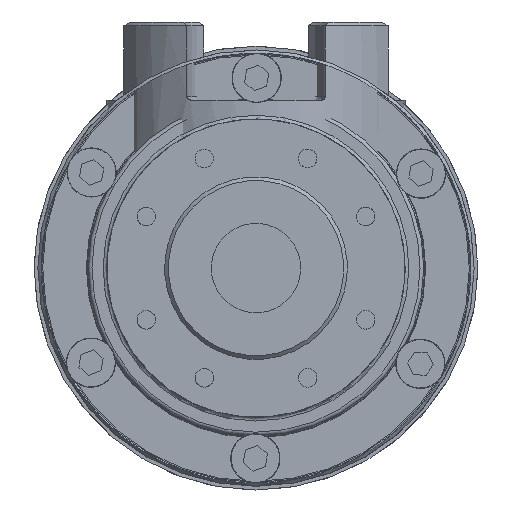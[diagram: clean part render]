
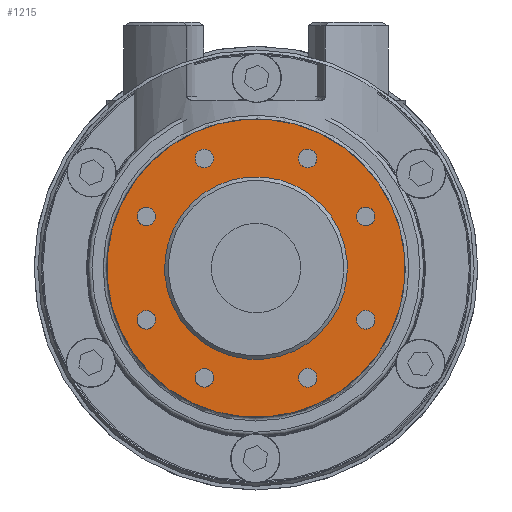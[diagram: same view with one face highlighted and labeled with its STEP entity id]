
A CAD part, left-side view. The second image highlights one B-rep face of the part: STEP entity #1215.
In plain terms, the highlighted planar face has unit normal (-1, 0, 0) as drawn and (0, -1, 0) by its records, which use the part's own axes.
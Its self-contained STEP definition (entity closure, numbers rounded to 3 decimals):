
#1215 = ADVANCED_FACE( '', ( #2581, #2582, #2583, #2584, #2585, #2586, #2587, #2588, #2589, #2590 ), #2591, .F. );
#2581 = FACE_OUTER_BOUND( '', #3860, .T. );
#2582 = FACE_BOUND( '', #3861, .T. );
#2583 = FACE_BOUND( '', #3862, .T. );
#2584 = FACE_BOUND( '', #3863, .T. );
#2585 = FACE_BOUND( '', #3864, .T. );
#2586 = FACE_BOUND( '', #3865, .T. );
#2587 = FACE_BOUND( '', #3866, .T. );
#2588 = FACE_BOUND( '', #3867, .T. );
#2589 = FACE_BOUND( '', #3868, .T. );
#2590 = FACE_BOUND( '', #3869, .T. );
#2591 = PLANE( '', #3870 );
#3860 = EDGE_LOOP( '', ( #6936 ) );
#3861 = EDGE_LOOP( '', ( #6937 ) );
#3862 = EDGE_LOOP( '', ( #6938 ) );
#3863 = EDGE_LOOP( '', ( #6939 ) );
#3864 = EDGE_LOOP( '', ( #6940 ) );
#3865 = EDGE_LOOP( '', ( #6941 ) );
#3866 = EDGE_LOOP( '', ( #6942 ) );
#3867 = EDGE_LOOP( '', ( #6943 ) );
#3868 = EDGE_LOOP( '', ( #6944 ) );
#3869 = EDGE_LOOP( '', ( #6945 ) );
#3870 = AXIS2_PLACEMENT_3D( '', #6946, #6947, #6948 );
#6936 = ORIENTED_EDGE( '', *, *, #7924, .T. );
#6937 = ORIENTED_EDGE( '', *, *, #7935, .F. );
#6938 = ORIENTED_EDGE( '', *, *, #7936, .F. );
#6939 = ORIENTED_EDGE( '', *, *, #7937, .F. );
#6940 = ORIENTED_EDGE( '', *, *, #7938, .F. );
#6941 = ORIENTED_EDGE( '', *, *, #7939, .F. );
#6942 = ORIENTED_EDGE( '', *, *, #7940, .F. );
#6943 = ORIENTED_EDGE( '', *, *, #7941, .F. );
#6944 = ORIENTED_EDGE( '', *, *, #7942, .F. );
#6945 = ORIENTED_EDGE( '', *, *, #7926, .F. );
#6946 = CARTESIAN_POINT( '', ( 0., 0., 40. ) );
#6947 = DIRECTION( '', ( 0., 1., 0. ) );
#6948 = DIRECTION( '', ( 1., 0., 0. ) );
#7924 = EDGE_CURVE( '', #9396, #9396, #9397, .T. );
#7926 = EDGE_CURVE( '', #9400, #9400, #9401, .T. );
#7935 = EDGE_CURVE( '', #9418, #9418, #9419, .T. );
#7936 = EDGE_CURVE( '', #9420, #9420, #9421, .T. );
#7937 = EDGE_CURVE( '', #9422, #9422, #9423, .T. );
#7938 = EDGE_CURVE( '', #9424, #9424, #9425, .T. );
#7939 = EDGE_CURVE( '', #9426, #9426, #9427, .T. );
#7940 = EDGE_CURVE( '', #9428, #9428, #9429, .T. );
#7941 = EDGE_CURVE( '', #9430, #9430, #9431, .T. );
#7942 = EDGE_CURVE( '', #9432, #9432, #9433, .T. );
#9396 = VERTEX_POINT( '', #11826 );
#9397 = CIRCLE( '', #11827, 40. );
#9400 = VERTEX_POINT( '', #11830 );
#9401 = CIRCLE( '', #11831, 24.5 );
#9418 = VERTEX_POINT( '', #11848 );
#9419 = CIRCLE( '', #11849, 2.5 );
#9420 = VERTEX_POINT( '', #11850 );
#9421 = CIRCLE( '', #11851, 2.5 );
#9422 = VERTEX_POINT( '', #11852 );
#9423 = CIRCLE( '', #11853, 2.5 );
#9424 = VERTEX_POINT( '', #11854 );
#9425 = CIRCLE( '', #11855, 2.5 );
#9426 = VERTEX_POINT( '', #11856 );
#9427 = CIRCLE( '', #11857, 2.5 );
#9428 = VERTEX_POINT( '', #11858 );
#9429 = CIRCLE( '', #11859, 2.5 );
#9430 = VERTEX_POINT( '', #11860 );
#9431 = CIRCLE( '', #11861, 2.5 );
#9432 = VERTEX_POINT( '', #11862 );
#9433 = CIRCLE( '', #11863, 2.5 );
#11826 = CARTESIAN_POINT( '', ( 0., 0., -40. ) );
#11827 = AXIS2_PLACEMENT_3D( '', #13591, #13592, #13593 );
#11830 = CARTESIAN_POINT( '', ( 0., 0., -24.5 ) );
#11831 = AXIS2_PLACEMENT_3D( '', #13597, #13598, #13599 );
#11848 = CARTESIAN_POINT( '', ( -25.054, 0., 23.202 ) );
#11849 = AXIS2_PLACEMENT_3D( '', #13624, #13625, #13626 );
#11850 = CARTESIAN_POINT( '', ( -32.5, 0., 2.5 ) );
#11851 = AXIS2_PLACEMENT_3D( '', #13627, #13628, #13629 );
#11852 = CARTESIAN_POINT( '', ( -23.202, 0., -25.054 ) );
#11853 = AXIS2_PLACEMENT_3D( '', #13630, #13631, #13632 );
#11854 = CARTESIAN_POINT( '', ( -2.5, 0., -32.5 ) );
#11855 = AXIS2_PLACEMENT_3D( '', #13633, #13634, #13635 );
#11856 = CARTESIAN_POINT( '', ( 25.054, 0., -23.202 ) );
#11857 = AXIS2_PLACEMENT_3D( '', #13636, #13637, #13638 );
#11858 = CARTESIAN_POINT( '', ( 32.5, 0., -2.5 ) );
#11859 = AXIS2_PLACEMENT_3D( '', #13639, #13640, #13641 );
#11860 = CARTESIAN_POINT( '', ( 23.202, 0., 25.054 ) );
#11861 = AXIS2_PLACEMENT_3D( '', #13642, #13643, #13644 );
#11862 = CARTESIAN_POINT( '', ( 2.5, 0., 32.5 ) );
#11863 = AXIS2_PLACEMENT_3D( '', #13645, #13646, #13647 );
#13591 = CARTESIAN_POINT( '', ( 0., 0., 0. ) );
#13592 = DIRECTION( '', ( 0., -1., 0. ) );
#13593 = DIRECTION( '', ( 0., 0., -1. ) );
#13597 = CARTESIAN_POINT( '', ( 0., 0., 0. ) );
#13598 = DIRECTION( '', ( 0., -1., 0. ) );
#13599 = DIRECTION( '', ( 0., 0., -1. ) );
#13624 = CARTESIAN_POINT( '', ( -25.054, 0., 20.702 ) );
#13625 = DIRECTION( '', ( 0., -1., 0. ) );
#13626 = DIRECTION( '', ( 0., 0., 1. ) );
#13627 = CARTESIAN_POINT( '', ( -32.5, 0., 0. ) );
#13628 = DIRECTION( '', ( 0., -1., 0. ) );
#13629 = DIRECTION( '', ( 0., 0., 1. ) );
#13630 = CARTESIAN_POINT( '', ( -20.702, 0., -25.054 ) );
#13631 = DIRECTION( '', ( 0., -1., 0. ) );
#13632 = DIRECTION( '', ( -1., 0., 0. ) );
#13633 = CARTESIAN_POINT( '', ( 0., 0., -32.5 ) );
#13634 = DIRECTION( '', ( 0., -1., 0. ) );
#13635 = DIRECTION( '', ( -1., 0., 0. ) );
#13636 = CARTESIAN_POINT( '', ( 25.054, 0., -20.702 ) );
#13637 = DIRECTION( '', ( 0., -1., 0. ) );
#13638 = DIRECTION( '', ( 0., 0., -1. ) );
#13639 = CARTESIAN_POINT( '', ( 32.5, 0., 0. ) );
#13640 = DIRECTION( '', ( 0., -1., 0. ) );
#13641 = DIRECTION( '', ( 0., 0., -1. ) );
#13642 = CARTESIAN_POINT( '', ( 20.702, 0., 25.054 ) );
#13643 = DIRECTION( '', ( 0., -1., 0. ) );
#13644 = DIRECTION( '', ( 1., 0., 0. ) );
#13645 = CARTESIAN_POINT( '', ( 0., 0., 32.5 ) );
#13646 = DIRECTION( '', ( 0., -1., 0. ) );
#13647 = DIRECTION( '', ( 1., 0., 0. ) );
